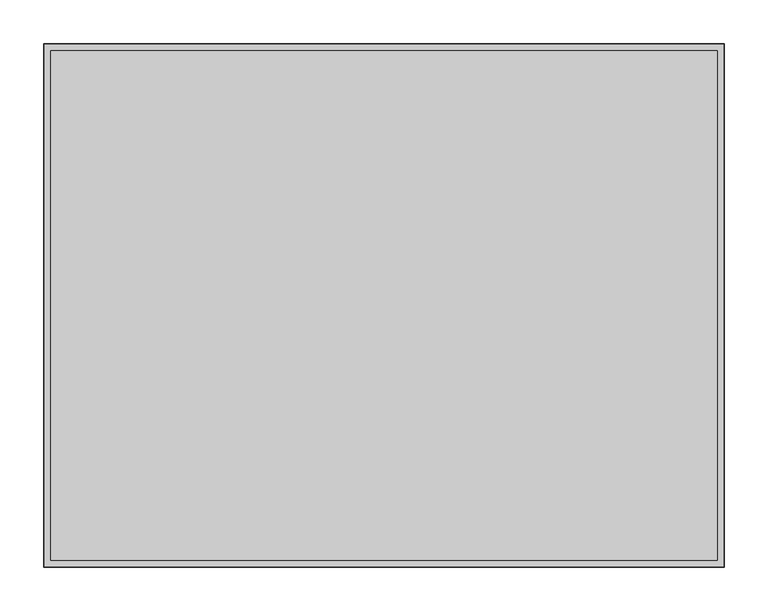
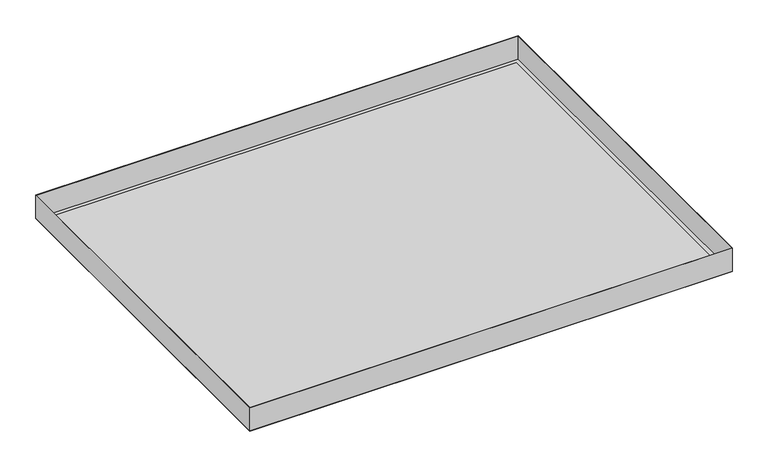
"""IFC4 building model written with IfcOpenShell, lengths in millimetres: proxy geometry, durlum_S-OM-40 : durlum_S-OM-40_panel_wall_length_cut."""

from ifc_helpers import new_model, si_unit, frame, origin, origin_with_axes, place, context, project, spatial, polyline, outline, extrude, source, transform, mapped, element, save


def generic_models_93e67717(model_context):
    return source(origin(), model_context, "Body", "SweptSolid", [
        extrude(outline(polyline([(389.5, 299.5), (389.5, -299.5), (-389.5, -299.5), (-389.5, 299.5), (389.5, 299.5)]), holes=[polyline([(388.9, 298.9), (-388.9, 298.9), (-388.9, -298.9), (388.9, -298.9), (388.9, 298.9)])]), frame((0.0, 0.0, 0.6), z_axis=(0.0, 0.0, 1.0), x_axis=(1.0, 0.0, 0.0)), (0.0, 0.0, 1.0), 39.4),
        extrude(outline(polyline([(381.5, 291.5), (381.5, -291.5), (-381.5, -291.5), (-381.5, 291.5), (381.5, 291.5)])), frame((0.0, 0.0, 0.6), z_axis=(0.0, 0.0, 1.0), x_axis=(1.0, 0.0, 0.0)), (0.0, 0.0, 1.0), 0.6),
        extrude(outline(polyline([(389.5, 299.5), (389.5, -299.5), (-389.5, -299.5), (-389.5, 299.5), (389.5, 299.5)]), holes=[polyline([(381.5, 291.5), (-381.5, 291.5), (-381.5, -291.5), (381.5, -291.5), (381.5, 291.5)])]), origin_with_axes(), (0.0, 0.0, 1.0), 0.6),
        extrude(outline(polyline([(381.5, 291.5), (381.5, -291.5), (-381.5, -291.5), (-381.5, 291.5), (381.5, 291.5)])), origin_with_axes(), (0.0, 0.0, 1.0), 0.6),
    ])


if __name__ == "__main__":
    model = new_model("IFC4")
    model_context = context("Model", 3, world=origin())
    ifc_project = project(units=[si_unit("LENGTHUNIT", "METRE", prefix="MILLI")], contexts=[model_context])
    site = spatial("IfcSite", under=ifc_project)
    building = spatial("IfcBuilding", under=site)
    placement = place(None, origin())
    generic_models_shape = generic_models_93e67717(model_context)
    element("IfcBuildingElementProxy", 1, Name="durlum_S-OM-40 : durlum_S-OM-40_panel_wall_length_cut", ObjectType="durlum_S-OM-40 : durlum_S-OM-40_panel_wall_length_cut", at=placement, inside=building, context=model_context, shape_type="MappedRepresentation", body=[
        mapped(generic_models_shape, transform((0.0, 0.0, 0.0), x_axis=(1.0, 0.0, 0.0), y_axis=(0.0, 1.0, 0.0), z_axis=(0.0, 0.0, 1.0))),
    ])
    save(model, "model.ifc")
